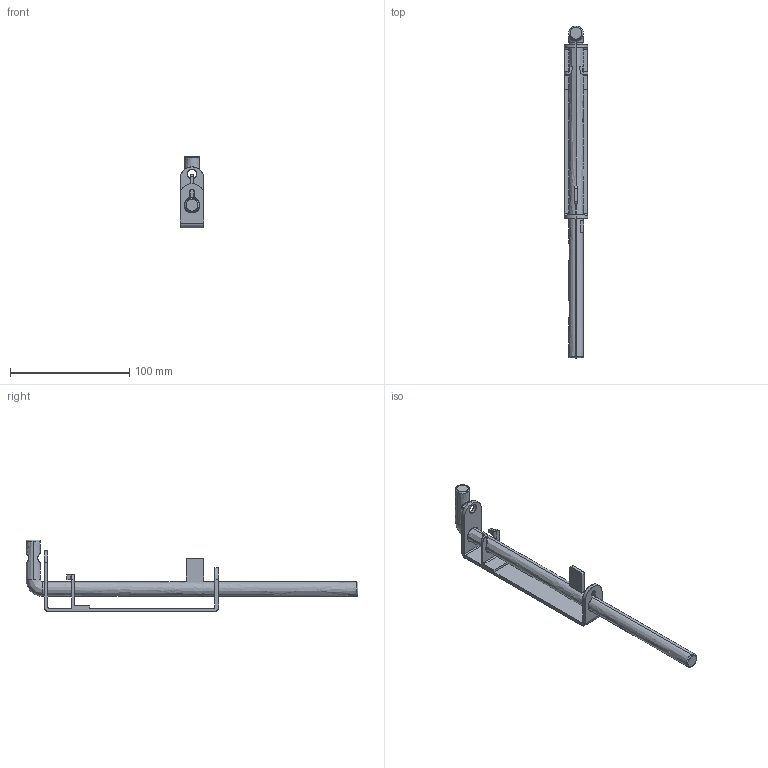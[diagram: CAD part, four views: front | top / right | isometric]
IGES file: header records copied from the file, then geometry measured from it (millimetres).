
Start section: SolidWorks IGES FILE using analytic representation for surfaces
Global section: file name: \\Ls-wvld1d\share\シブタニ\3D設計\ラッチ錠・キャッチ\DL-147S\DL-147S.IGS; native system: SolidWorks 2003 by SolidWorks Corporation; preprocessor: Version 5.3; author: user; date: 130710.171617; units: millimetre
Bounding box: 20 x 278 x 60 mm (x, y, z)
Surface area: 23791.8 mm2 (no closed solid volume)
Topology: 0 solids, 0 shells, 83 faces, 1194 edges, 1194 vertices
Faces by surface type: bspline 53, revolution 30
